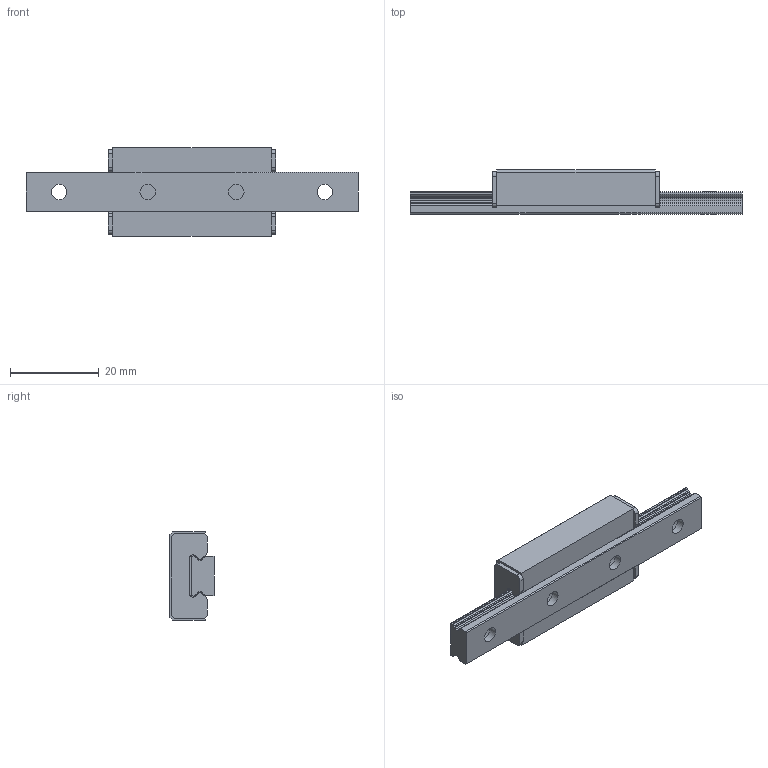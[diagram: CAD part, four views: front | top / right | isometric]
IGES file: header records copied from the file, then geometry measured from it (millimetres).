
Start section: Data from Parasolid IGES Translator 26.0.171, Copyright(c) 2006 Siemens PLM Software. All Rights Reserved.
Global section: file name: EPF9M21-75LM_G7-5_0_18-6_1.igs; native system: By Siemens PLM Incorporated; preprocessor: XPlus GENERIC/IGES 26.0.171; author: Noname; organization: Noname; date: 20240521.041246; units: millimetre
Bounding box: 75 x 10 x 20 mm (x, y, z)
Surface area: 5308.3 mm2 (no closed solid volume)
Topology: 0 solids, 0 shells, 156 faces, 884 edges, 872 vertices
Faces by surface type: revolution 78, extrusion 78
